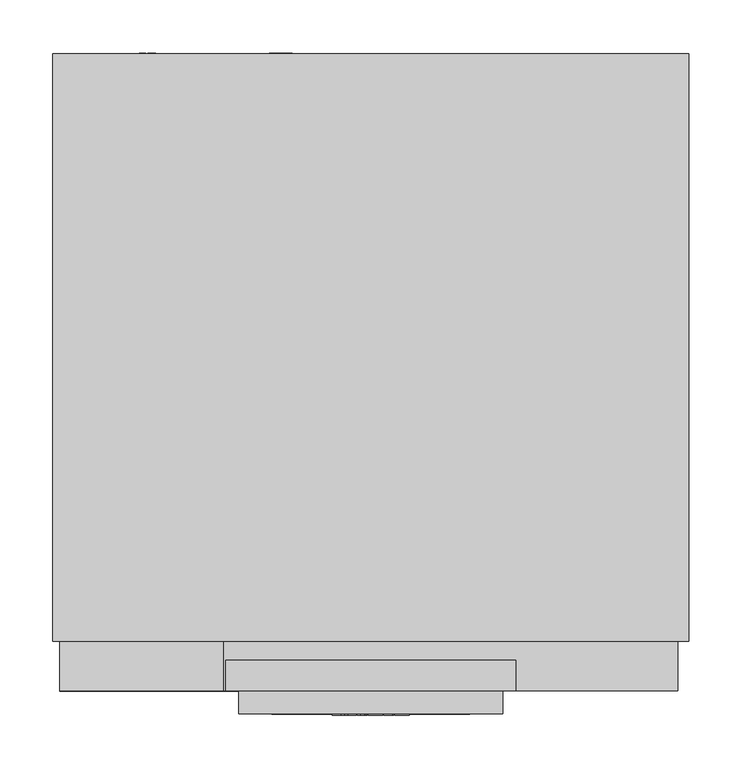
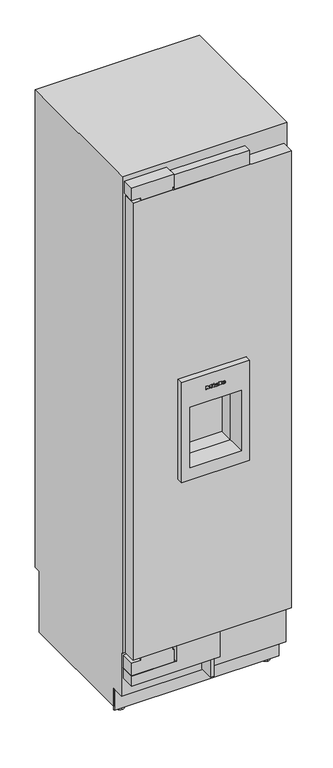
"""IFC4 building model written with IfcOpenShell, lengths in millimetres: proxy geometry, 11503550_USA_F2672Vi : 37267201_USA_11503550_F2672Vi."""

from ifc_helpers import new_model, si_unit, point, frame, frame_2d, origin, place, context, project, spatial, polyline, circle_curve, ellipse_curve, trimmed, segment, composite_curve, outline, extrude, faceted_brep, source, transform, mapped, element, save
from ifc_brep_helpers import plane_surface, cylinder_surface, revolved_surface, extruded_surface, advanced_brep


def specialty_equipment_8bc85f02(model_context):
    return source(origin(), model_context, "Body", "SolidModel", [
        extrude(outline(polyline([(-6.5, 54.0), (6.5, 54.0), (6.5, 0.0), (-6.5, 0.0), (-6.5, 54.0)])), frame((0.0, 0.0, 99.0), z_axis=(0.0, 0.0, 1.0), x_axis=(1.0, 0.0, 0.0)), (0.0, 0.0, 1.0), 67.0),
        faceted_brep([(125.0, -21.7, 1295.0), (-125.0, -21.7, 1295.0), (-125.0, -21.7, 908.0), (125.0, -21.7, 908.0), (94.0, -21.7, 1190.0), (94.0, -21.7, 956.0), (-94.0, -21.7, 956.0), (-94.0, -21.7, 1190.0), (125.0, 47.0, 1295.0), (125.0, 47.0, 908.0), (-125.0, 47.0, 908.0), (-125.0, 47.0, 1295.0), (94.0, 47.0, 1190.0), (-94.0, 47.0, 1190.0), (-94.0, 47.0, 956.0), (94.0, 47.0, 956.0), (-94.0, -11.7943775, 1190.0), (94.0, -11.7943775, 1190.0), (-94.0, -11.7943775, 956.0), (94.0, -11.7943775, 956.0)], [[[0, 1, 2, 3], [4, 5, 6, 7]], [[8, 9, 10, 11], [12, 13, 14, 15]], [[0, 3, 9, 8]], [[3, 2, 10, 9]], [[2, 1, 11, 10]], [[1, 0, 8, 11]], [[4, 7, 16, 13, 12, 17]], [[7, 6, 18, 14, 13, 16]], [[6, 5, 19, 15, 14, 18]], [[5, 4, 17, 12, 15, 19]]]),
        extrude(outline(polyline([(2036.0, 291.0), (2036.0, -291.0), (265.0, -291.0), (265.0, 291.0), (2036.0, 291.0)]), holes=[polyline([(1295.0, 125.0), (908.0, 125.0), (908.0, -125.0), (1295.0, -125.0), (1295.0, 125.0)])]), frame((0.0, 0.0, 0.0), z_axis=(0.0, 1.0, 0.0), x_axis=(0.0, 0.0, 1.0)), (0.0, 0.0, 1.0), 47.0),
        faceted_brep([(-158.0, 47.0, 863.0), (-158.0, 47.0, 1335.0), (-158.0, 239.0, 1335.0), (-158.0, 239.0, 987.0), (-158.0, 140.0, 863.0), (158.0, 47.0, 863.0), (158.0, 140.0, 863.0), (158.0, 239.0, 987.0), (158.0, 239.0, 1335.0), (158.0, 47.0, 1335.0), (94.0, 47.0, 1190.0), (94.0, 47.0, 956.0), (-94.0, 47.0, 956.0), (-94.0, 47.0, 1190.0), (94.0, 100.0, 1190.0), (-94.0, 100.0, 1190.0), (-94.0, 100.0, 956.0), (94.0, 100.0, 956.0)], [[[0, 1, 2, 3, 4]], [[5, 6, 7, 8, 9]], [[0, 4, 6, 5]], [[4, 3, 7, 6]], [[3, 2, 8, 7]], [[2, 1, 9, 8]], [[1, 0, 5, 9], [10, 11, 12, 13]], [[14, 15, 16, 17]], [[14, 17, 11, 10]], [[17, 16, 12, 11]], [[16, 15, 13, 12]], [[15, 14, 10, 13]]]),
        extrude(outline(polyline([(-137.5, 29.0), (137.5, 29.0), (137.5, 0.0), (-137.5, 0.0), (-137.5, 29.0)])), frame((0.0, 0.0, 2036.0), z_axis=(0.0, 0.0, 1.0), x_axis=(1.0, 0.0, 0.0)), (0.0, 0.0, 1.0), 56.0),
        advanced_brep(
        [(28.472, -22.7, 1241.344), (28.472, -22.7, 1242.556), (36.5, -22.7, 1242.556), (22.532, -22.7, 1242.556), (25.832, -22.7, 1238.5), (36.296, -22.7, 1241.344), (32.672, -22.7, 1241.344), (29.816, -22.7, 1240.0), (28.472, -22.7, 1244.092), (28.472, -22.7, 1245.4), (30.524, -22.7, 1245.4), (30.524, -22.7, 1244.092), (28.472, -21.7, 1241.344), (29.816, -21.7, 1240.0), (32.672, -21.7, 1241.344), (36.296, -21.7, 1241.344), (25.832, -21.7, 1238.5), (22.532, -21.7, 1242.556), (36.5, -21.7, 1242.556), (28.472, -21.7, 1242.556), (28.472, -21.7, 1244.092), (30.524, -21.7, 1244.092), (30.524, -21.7, 1245.4), (28.472, -21.7, 1245.4)],
        [
            (0, 1),
            (1, 2),
            (2, 3, ellipse_curve(frame((29.516, -22.7, 1242.556), z_axis=(0.0, -1.0, 0.0), x_axis=(-1.0, 0.0, 0.0)), 6.984, 5.772)),
            (3, 4, circle_curve(frame((27.1760655, -22.7, 1242.964), z_axis=(0.0, -1.0, 0.0), x_axis=(0.0, 0.0, -1.0)), 4.6619532)),
            (4, 5, circle_curve(frame((29.3761904, -22.7, 1246.132), z_axis=(0.0, -1.0, 0.0), x_axis=(0.0, 0.0, -1.0)), 8.4147911)),
            (5, 6),
            (6, 7, circle_curve(frame((30.4025882, -22.7, 1242.46), z_axis=(0.0, 1.0, 0.0), x_axis=(0.0, 0.0, -1.0)), 2.5289693)),
            (7, 0, circle_curve(frame((29.816, -22.7, 1241.344), z_axis=(0.0, 1.0, 0.0), x_axis=(0.0, 0.0, -1.0)), 1.344)),
            (8, 9),
            (9, 10, circle_curve(frame((29.498, -22.7, 1245.4), z_axis=(0.0, 1.0, 0.0), x_axis=(0.0, 0.0, -1.0)), 1.026)),
            (10, 11),
            (11, 8),
            (12, 13, circle_curve(frame((29.816, -21.7, 1241.344), z_axis=(0.0, -1.0, 0.0), x_axis=(0.0, 0.0, -1.0)), 1.344)),
            (13, 14, circle_curve(frame((30.4025882, -21.7, 1242.46), z_axis=(0.0, -1.0, 0.0), x_axis=(0.0, 0.0, -1.0)), 2.5289693)),
            (14, 15),
            (15, 16, circle_curve(frame((29.3761904, -21.7, 1246.132), z_axis=(0.0, 1.0, 0.0), x_axis=(0.0, 0.0, -1.0)), 8.4147911)),
            (16, 17, circle_curve(frame((27.1760655, -21.7, 1242.964), z_axis=(0.0, 1.0, 0.0), x_axis=(0.0, 0.0, -1.0)), 4.6619532)),
            (17, 18, ellipse_curve(frame((29.516, -21.7, 1242.556), z_axis=(0.0, 1.0, 0.0), x_axis=(-1.0, 0.0, 0.0)), 6.984, 5.772)),
            (18, 19),
            (19, 12),
            (20, 21),
            (21, 22),
            (22, 23, circle_curve(frame((29.498, -21.7, 1245.4), z_axis=(0.0, -1.0, 0.0), x_axis=(0.0, 0.0, -1.0)), 1.026)),
            (23, 20),
            (0, 12),
            (19, 1),
            (18, 2),
            (5, 15),
            (14, 6),
            (17, 3),
            (13, 7),
            (16, 4),
            (8, 20),
            (23, 9),
            (22, 10),
            (21, 11),
        ],
        [
            plane_surface(frame((28.472, -22.7, 1242.556), z_axis=(0.0, -1.0, 0.0), x_axis=(0.0, 0.0, 1.0))),
            plane_surface(frame((28.472, -21.7, 1242.556), z_axis=(0.0, 1.0, 0.0), x_axis=(0.0, 0.0, -1.0))),
            plane_surface(frame((28.472, -22.7, 1241.344), z_axis=(1.0, 0.0, 0.0), x_axis=(0.0, 1.0, 0.0))),
            plane_surface(frame((28.472, -22.7, 1242.556), z_axis=(0.0, 0.0, -1.0), x_axis=(0.0, 1.0, 0.0))),
            plane_surface(frame((36.296, -22.7, 1241.344), z_axis=(0.0, 0.0, 1.0), x_axis=(0.0, 1.0, 0.0))),
            extruded_surface(trimmed(ellipse_curve(frame((29.516, -20.7, 1242.556), z_axis=(0.0, -1.0, 0.0), x_axis=(-1.0, 0.0, 0.0)), 6.984, 5.772), [point((36.5, -20.7, 1242.556))], [point((22.532, -20.7, 1242.556))], True, "CARTESIAN"), (0.0, -1.0, 0.0), 1.0),
            revolved_surface(polyline([(30.4025882, -21.7, 1239.9310307), (30.4025882, -22.7, 1239.9310307)]), (30.4025882, -21.7, 1242.46), (0.0, 1.0, 0.0)),
            revolved_surface(polyline([(29.816, -21.7, 1240.0), (29.816, -22.7, 1240.0)]), (29.816, -21.7, 1241.344), (0.0, 1.0, 0.0)),
            cylinder_surface(frame((27.1760655, -21.7, 1242.964), z_axis=(0.0, -1.0, 0.0), x_axis=(0.0, 0.0, -1.0)), 4.6619532),
            cylinder_surface(frame((29.3761904, -21.7, 1246.132), z_axis=(0.0, -1.0, 0.0), x_axis=(0.0, 0.0, -1.0)), 8.4147911),
            plane_surface(frame((28.472, -22.7, 1244.092), z_axis=(1.0, 0.0, 0.0), x_axis=(0.0, 1.0, 0.0))),
            revolved_surface(polyline([(29.498, -21.7, 1244.374), (29.498, -22.7, 1244.374)]), (29.498, -21.7, 1245.4), (0.0, 1.0, 0.0)),
            plane_surface(frame((30.524, -22.7, 1245.4), z_axis=(-1.0, 0.0, 0.0), x_axis=(0.0, 1.0, 0.0))),
            plane_surface(frame((30.524, -22.7, 1244.092), z_axis=(0.0, 0.0, 1.0), x_axis=(0.0, 1.0, 0.0))),
        ],
        [
            (0, [[1, 2, 3, 4, 5, 6, 7, 8], [9, 10, 11, 12]]),
            (1, [[13, 14, 15, 16, 17, 18, 19, 20], [21, 22, 23, 24]]),
            (2, [[-1, 25, -20, 26]]),
            (3, [[-2, -26, -19, 27]]),
            (4, [[-6, 28, -15, 29]]),
            (5, [[-3, -27, -18, 30]]),
            (6, [[-7, -29, -14, 31]]),
            (7, [[-8, -31, -13, -25]]),
            (8, [[-4, -30, -17, 32]]),
            (9, [[-5, -32, -16, -28]]),
            (10, [[-9, 33, -24, 34]]),
            (11, [[-10, -34, -23, 35]]),
            (12, [[-11, -35, -22, 36]]),
            (13, [[-12, -36, -21, -33]]),
        ],
    ),
        advanced_brep(
        [(3.428, -22.7, 1241.344), (3.428, -22.7, 1242.556), (11.456, -22.7, 1242.556), (-2.512, -22.7, 1242.556), (0.788, -22.7, 1238.5), (11.252, -22.7, 1241.344), (7.628, -22.7, 1241.344), (4.772, -22.7, 1240.0), (3.428, -22.7, 1244.092), (3.428, -22.7, 1245.4), (5.48, -22.7, 1245.4), (5.48, -22.7, 1244.092), (3.428, -21.7, 1241.344), (4.772, -21.7, 1240.0), (7.628, -21.7, 1241.344), (11.252, -21.7, 1241.344), (0.788, -21.7, 1238.5), (-2.512, -21.7, 1242.556), (11.456, -21.7, 1242.556), (3.428, -21.7, 1242.556), (3.428, -21.7, 1244.092), (5.48, -21.7, 1244.092), (5.48, -21.7, 1245.4), (3.428, -21.7, 1245.4)],
        [
            (0, 1),
            (1, 2),
            (2, 3, ellipse_curve(frame((4.472, -22.7, 1242.556), z_axis=(0.0, -1.0, 0.0), x_axis=(-1.0, 0.0, 0.0)), 6.984, 5.772)),
            (3, 4, circle_curve(frame((2.1320655, -22.7, 1242.964), z_axis=(0.0, -1.0, 0.0), x_axis=(0.0, 0.0, -1.0)), 4.6619532)),
            (4, 5, circle_curve(frame((4.3321904, -22.7, 1246.132), z_axis=(0.0, -1.0, 0.0), x_axis=(0.0, 0.0, -1.0)), 8.4147911)),
            (5, 6),
            (6, 7, circle_curve(frame((5.3585882, -22.7, 1242.46), z_axis=(0.0, 1.0, 0.0), x_axis=(0.0, 0.0, -1.0)), 2.5289693)),
            (7, 0, circle_curve(frame((4.772, -22.7, 1241.344), z_axis=(0.0, 1.0, 0.0), x_axis=(0.0, 0.0, -1.0)), 1.344)),
            (8, 9),
            (9, 10, circle_curve(frame((4.454, -22.7, 1245.4), z_axis=(0.0, 1.0, 0.0), x_axis=(0.0, 0.0, -1.0)), 1.026)),
            (10, 11),
            (11, 8),
            (12, 13, circle_curve(frame((4.772, -21.7, 1241.344), z_axis=(0.0, -1.0, 0.0), x_axis=(0.0, 0.0, -1.0)), 1.344)),
            (13, 14, circle_curve(frame((5.3585882, -21.7, 1242.46), z_axis=(0.0, -1.0, 0.0), x_axis=(0.0, 0.0, -1.0)), 2.5289693)),
            (14, 15),
            (15, 16, circle_curve(frame((4.3321904, -21.7, 1246.132), z_axis=(0.0, 1.0, 0.0), x_axis=(0.0, 0.0, -1.0)), 8.4147911)),
            (16, 17, circle_curve(frame((2.1320655, -21.7, 1242.964), z_axis=(0.0, 1.0, 0.0), x_axis=(0.0, 0.0, -1.0)), 4.6619532)),
            (17, 18, ellipse_curve(frame((4.472, -21.7, 1242.556), z_axis=(0.0, 1.0, 0.0), x_axis=(-1.0, 0.0, 0.0)), 6.984, 5.772)),
            (18, 19),
            (19, 12),
            (20, 21),
            (21, 22),
            (22, 23, circle_curve(frame((4.454, -21.7, 1245.4), z_axis=(0.0, -1.0, 0.0), x_axis=(0.0, 0.0, -1.0)), 1.026)),
            (23, 20),
            (0, 12),
            (19, 1),
            (18, 2),
            (5, 15),
            (14, 6),
            (17, 3),
            (13, 7),
            (16, 4),
            (8, 20),
            (23, 9),
            (22, 10),
            (21, 11),
        ],
        [
            plane_surface(frame((3.428, -22.7, 1242.556), z_axis=(0.0, -1.0, 0.0), x_axis=(0.0, 0.0, 1.0))),
            plane_surface(frame((3.428, -21.7, 1242.556), z_axis=(0.0, 1.0, 0.0), x_axis=(0.0, 0.0, -1.0))),
            plane_surface(frame((3.428, -22.7, 1241.344), z_axis=(1.0, 0.0, 0.0), x_axis=(0.0, 1.0, 0.0))),
            plane_surface(frame((3.428, -22.7, 1242.556), z_axis=(0.0, 0.0, -1.0), x_axis=(0.0, 1.0, 0.0))),
            plane_surface(frame((11.252, -22.7, 1241.344), z_axis=(0.0, 0.0, 1.0), x_axis=(0.0, 1.0, 0.0))),
            extruded_surface(trimmed(ellipse_curve(frame((4.472, -20.7, 1242.556), z_axis=(0.0, -1.0, 0.0), x_axis=(-1.0, 0.0, 0.0)), 6.984, 5.772), [point((11.456, -20.7, 1242.556))], [point((-2.512, -20.7, 1242.556))], True, "CARTESIAN"), (0.0, -1.0, 0.0), 1.0),
            revolved_surface(polyline([(5.3585882, -21.7, 1239.9310307), (5.3585882, -22.7, 1239.9310307)]), (5.3585882, -21.7, 1242.46), (0.0, 1.0, 0.0)),
            revolved_surface(polyline([(4.772, -21.7, 1240.0), (4.772, -22.7, 1240.0)]), (4.772, -21.7, 1241.344), (0.0, 1.0, 0.0)),
            cylinder_surface(frame((2.1320655, -21.7, 1242.964), z_axis=(0.0, -1.0, 0.0), x_axis=(0.0, 0.0, -1.0)), 4.6619532),
            cylinder_surface(frame((4.3321904, -21.7, 1246.132), z_axis=(0.0, -1.0, 0.0), x_axis=(0.0, 0.0, -1.0)), 8.4147911),
            plane_surface(frame((3.428, -22.7, 1244.092), z_axis=(1.0, 0.0, 0.0), x_axis=(0.0, 1.0, 0.0))),
            revolved_surface(polyline([(4.454, -21.7, 1244.374), (4.454, -22.7, 1244.374)]), (4.454, -21.7, 1245.4), (0.0, 1.0, 0.0)),
            plane_surface(frame((5.48, -22.7, 1245.4), z_axis=(-1.0, 0.0, 0.0), x_axis=(0.0, 1.0, 0.0))),
            plane_surface(frame((5.48, -22.7, 1244.092), z_axis=(0.0, 0.0, 1.0), x_axis=(0.0, 1.0, 0.0))),
        ],
        [
            (0, [[1, 2, 3, 4, 5, 6, 7, 8], [9, 10, 11, 12]]),
            (1, [[13, 14, 15, 16, 17, 18, 19, 20], [21, 22, 23, 24]]),
            (2, [[-1, 25, -20, 26]]),
            (3, [[-2, -26, -19, 27]]),
            (4, [[-6, 28, -15, 29]]),
            (5, [[-3, -27, -18, 30]]),
            (6, [[-7, -29, -14, 31]]),
            (7, [[-8, -31, -13, -25]]),
            (8, [[-4, -30, -17, 32]]),
            (9, [[-5, -32, -16, -28]]),
            (10, [[-9, 33, -24, 34]]),
            (11, [[-10, -34, -23, 35]]),
            (12, [[-11, -35, -22, 36]]),
            (13, [[-12, -36, -21, -33]]),
        ],
    ),
        extrude(outline(polyline([(1249.792, -9.688), (1247.848, -8.776), (1249.744, -4.708), (1251.688, -5.608), (1249.792, -9.688)])), frame((0.0, -22.7, 0.0), z_axis=(0.0, 1.0, 0.0), x_axis=(0.0, 0.0, 1.0)), (0.0, 0.0, 1.0), 1.0),
        extrude(outline(polyline([(1247.584, -12.652), (1245.436, -12.652), (1245.436, -11.224), (1240.516, -11.224), (1240.516, -12.652), (1238.5, -12.652), (1238.5, -3.184), (1240.516, -3.184), (1240.516, -4.576), (1247.584, -4.576), (1247.584, -12.652)])), frame((0.0, -22.7, 0.0), z_axis=(0.0, 1.0, 0.0), x_axis=(0.0, 0.0, 1.0)), (0.0, 0.0, 1.0), 1.0),
        extrude(outline(polyline([(1248.544, 12.128), (1248.544, 13.568), (1240.516, 13.568), (1240.516, 12.128), (1238.5, 12.128), (1238.5, 21.86), (1240.516, 21.86), (1240.516, 20.384), (1250.5, 20.384), (1250.5, 12.128), (1248.544, 12.128)])), frame((0.0, -22.7, 0.0), z_axis=(0.0, 1.0, 0.0), x_axis=(0.0, 0.0, 1.0)), (0.0, 0.0, 1.0), 1.0),
        extrude(outline(polyline([(1248.544, -36.568), (1248.544, -35.116), (1240.516, -35.116), (1240.516, -36.568), (1238.5, -36.568), (1238.5, -31.288), (1240.516, -31.288), (1240.516, -32.728), (1245.5951247, -32.728), (1238.5, -27.364), (1245.8152223, -21.976), (1240.516, -21.976), (1240.516, -23.452), (1238.5, -23.452), (1238.5, -13.876), (1240.516, -13.876), (1240.516, -15.4), (1248.544, -15.4), (1248.544, -13.876), (1250.5, -13.876), (1250.5, -21.184), (1246.0, -24.688), (1250.5, -28.204), (1250.5, -36.568), (1248.544, -36.568)])), frame((0.0, -22.7, 0.0), z_axis=(0.0, 1.0, 0.0), x_axis=(0.0, 0.0, 1.0)), (0.0, 0.0, 1.0), 1.0),
        extrude(outline(polyline([(519.0, 1998.0), (519.0, 1799.0), (447.0526316, 1799.0), (422.0, 1867.0), (201.7448904, 1867.0), (157.0, 1939.0), (87.0, 1949.0), (87.0, 1998.0), (519.0, 1998.0)])), frame((-255.5, 0.0, 0.0), z_axis=(1.0, 0.0, 0.0), x_axis=(0.0, 1.0, 0.0)), (0.0, 0.0, 1.0), 511.0),
        extrude(outline(polyline([(196.9886114, 1875.0), (195.809433, 1875.0), (158.6921935, 1934.4), (159.8713719, 1934.4), (196.9886114, 1875.0)])), frame((-69.0, 0.0, 0.0), z_axis=(1.0, 0.0, 0.0), x_axis=(0.0, 1.0, 0.0)), (0.0, 0.0, 1.0), 138.0),
        extrude(outline(polyline([(46.0510837, -84.101717), (37.4134902, -86.1745179), (46.0453554, -88.6868463), (46.0453554, -90.5601414), (37.4089549, -93.0799633), (46.0493903, -95.1581876), (46.0493903, -96.4649805), (36.0005458, -93.7156324), (36.0005458, -92.372208), (44.8261022, -89.6342221), (35.9987467, -87.0620509), (35.9987287, -85.5451466), (46.0510837, -82.800191), (46.0510837, -84.101717)])), frame((0.0, 604.0, 0.0), z_axis=(0.0, 1.0, 0.0), x_axis=(0.0, 0.0, 1.0)), (0.0, 0.0, 1.0), 1.0),
        extrude(outline(polyline([(46.0485238, -75.7401503), (41.1363122, -75.7401503), (46.0468162, -80.884602), (46.0468162, -82.6328316), (41.9156889, -78.3260313), (36.000035, -82.8032231), (36.000035, -81.2795519), (41.0742849, -77.4391666), (39.4525334, -75.7395503), (35.9999292, -75.7395503), (35.9999292, -74.4795491), (46.0485238, -74.4795491), (46.0485238, -75.7401503)])), frame((0.0, 604.0, 0.0), z_axis=(0.0, 1.0, 0.0), x_axis=(0.0, 0.0, 1.0)), (0.0, 0.0, 1.0), 1.0),
        extrude(outline(composite_curve([segment(trimmed(circle_curve(frame_2d((41.0, -85.0)), 7.5), [point((33.5, -85.0))], [point((48.5, -85.0))], False, "CARTESIAN"), True, "CONTINUOUS"), segment(trimmed(circle_curve(frame_2d((41.0, -85.0)), 7.5), [point((48.5, -85.0))], [point((33.5, -85.0))], False, "CARTESIAN"), True, "CONTINUOUS")], self_intersect=False)), frame((0.0, 577.0, 0.0), z_axis=(0.0, 1.0, 0.0), x_axis=(0.0, 0.0, 1.0)), (0.0, 0.0, 1.0), 27.0),
        extrude(outline(polyline([(2095.0, -295.0), (2047.0, -295.0), (2047.0, -261.0), (2036.5, -261.0), (2036.5, -146.0), (2047.0, -146.0), (2047.0, -140.0), (2095.0, -140.0), (2095.0, -295.0)])), frame((0.0, 0.0, 0.0), z_axis=(0.0, 1.0, 0.0), x_axis=(0.0, 0.0, 1.0)), (0.0, 0.0, 1.0), 47.0),
        extrude(outline(polyline([(254.0, -295.0), (206.0, -295.0), (206.0, -140.0), (254.0, -140.0), (254.0, -146.0), (264.0, -146.0), (264.0, -261.0), (254.0, -261.0), (254.0, -295.0)])), frame((0.0, 0.0, 0.0), z_axis=(0.0, 1.0, 0.0), x_axis=(0.0, 0.0, 1.0)), (0.0, 0.0, 1.0), 54.0),
        extrude(outline(polyline([(265.0, -131.5), (205.0, -131.5), (205.0, -295.0), (166.0, -295.0), (166.0, 28.5), (265.0, 28.5), (265.0, -131.5)])), frame((0.0, 0.0, 0.0), z_axis=(0.0, 1.0, 0.0), x_axis=(0.0, 0.0, 1.0)), (0.0, 0.0, 1.0), 54.0),
        extrude(outline(polyline([(99.0373308, -211.2645771), (97.7615342, -211.2645771), (97.7615342, -205.3195541), (94.7968516, -205.3195541), (94.7968516, -210.969579), (93.5246295, -210.969579), (93.5246295, -205.3415693), (90.2570046, -205.3415693), (90.2570046, -211.4619689), (88.9546219, -211.4619689), (88.9546219, -204.0443524), (99.0373308, -204.0443524), (99.0373308, -211.2645771)])), frame((0.0, 604.0, 0.0), z_axis=(0.0, 1.0, 0.0), x_axis=(0.0, 0.0, 1.0)), (0.0, 0.0, 1.0), 1.0),
        extrude(outline(polyline([(99.0458, -214.5619704), (90.2663944, -214.5619704), (90.2663944, -219.6145879), (89.0134802, -219.6145879), (89.0134802, -213.3423809), (99.0458, -213.3423809), (99.0458, -214.5619704)])), frame((0.0, 604.0, 0.0), z_axis=(0.0, 1.0, 0.0), x_axis=(0.0, 0.0, 1.0)), (0.0, 0.0, 1.0), 1.0),
        extrude(outline(composite_curve([segment(trimmed(circle_curve(frame_2d((94.0, -211.5)), 7.5), [point((86.5, -211.5))], [point((101.5, -211.5))], False, "CARTESIAN"), True, "CONTINUOUS"), segment(trimmed(circle_curve(frame_2d((94.0, -211.5)), 7.5), [point((101.5, -211.5))], [point((86.5, -211.5))], False, "CARTESIAN"), True, "CONTINUOUS")], self_intersect=False)), frame((0.0, 577.0, 0.0), z_axis=(0.0, 1.0, 0.0), x_axis=(0.0, 0.0, 1.0)), (0.0, 0.0, 1.0), 27.0),
        extrude(outline(polyline([(-301.5, 104.0), (301.5, 104.0), (301.5, 99.0), (-301.5, 99.0), (-301.5, 104.0)])), frame((0.0, 0.0, 14.0), z_axis=(0.0, 0.0, 1.0), x_axis=(1.0, 0.0, 0.0)), (0.0, 0.0, 1.0), 83.0),
        advanced_brep(
        [(-267.5, 139.0, 0.0), (-267.5, 109.0, 0.0), (-267.5, 139.0, 7.0), (-267.5, 109.0, 7.0), (-267.5, 128.7, 7.0), (-267.5, 119.3, 7.0), (-267.5, 128.7, 28.0), (-267.5, 119.3, 28.0)],
        [
            (0, 1, circle_curve(frame((-267.5, 124.0, 0.0), z_axis=(0.0, 0.0, -1.0), x_axis=(1.0, 0.0, 0.0)), 15.0)),
            (1, 0, circle_curve(frame((-267.5, 124.0, 0.0), z_axis=(0.0, 0.0, -1.0), x_axis=(1.0, 0.0, 0.0)), 15.0)),
            (2, 3, circle_curve(frame((-267.5, 124.0, 7.0), z_axis=(0.0, 0.0, 1.0), x_axis=(1.0, 0.0, 0.0)), 15.0)),
            (3, 2, circle_curve(frame((-267.5, 124.0, 7.0), z_axis=(0.0, 0.0, 1.0), x_axis=(1.0, 0.0, 0.0)), 15.0)),
            (4, 5, circle_curve(frame((-267.5, 124.0, 7.0), z_axis=(0.0, 0.0, -1.0), x_axis=(0.0, -1.0, 0.0)), 4.7)),
            (5, 4, circle_curve(frame((-267.5, 124.0, 7.0), z_axis=(0.0, 0.0, -1.0), x_axis=(0.0, -1.0, 0.0)), 4.7)),
            (0, 2),
            (3, 1),
            (6, 7, circle_curve(frame((-267.5, 124.0, 28.0), z_axis=(0.0, 0.0, 1.0), x_axis=(0.0, -1.0, 0.0)), 4.7)),
            (7, 6, circle_curve(frame((-267.5, 124.0, 28.0), z_axis=(0.0, 0.0, 1.0), x_axis=(0.0, -1.0, 0.0)), 4.7)),
            (7, 5),
            (4, 6),
        ],
        [
            plane_surface(frame((-252.5, 124.0, 0.0), z_axis=(0.0, 0.0, -1.0), x_axis=(0.0, -1.0, 0.0))),
            plane_surface(frame((-252.5, 124.0, 7.0), z_axis=(0.0, 0.0, 1.0), x_axis=(0.0, 1.0, 0.0))),
            cylinder_surface(frame((-267.5, 124.0, 7.0), z_axis=(0.0, 0.0, -1.0), x_axis=(1.0, 0.0, 0.0)), 15.0),
            plane_surface(frame((-267.5, 119.3, 28.0), z_axis=(0.0, 0.0, 1.0), x_axis=(1.0, 0.0, 0.0))),
            cylinder_surface(frame((-267.5, 124.0, 28.0), z_axis=(0.0, 0.0, -1.0), x_axis=(0.0, -1.0, 0.0)), 4.7),
        ],
        [
            (0, [[1, 2]]),
            (1, [[3, 4], [5, 6]]),
            (2, [[-1, 7, -4, 8]]),
            (2, [[-2, -8, -3, -7]]),
            (3, [[9, 10]]),
            (4, [[-10, 11, -5, 12]]),
            (4, [[-9, -12, -6, -11]]),
        ],
    ),
        advanced_brep(
        [(267.5, 139.0, 0.0), (267.5, 109.0, 0.0), (267.5, 139.0, 7.0), (267.5, 109.0, 7.0), (267.5, 128.7, 7.0), (267.5, 119.3, 7.0), (267.5, 128.7, 28.0), (267.5, 119.3, 28.0)],
        [
            (0, 1, circle_curve(frame((267.5, 124.0, 0.0), z_axis=(0.0, 0.0, -1.0), x_axis=(1.0, 0.0, 0.0)), 15.0)),
            (1, 0, circle_curve(frame((267.5, 124.0, 0.0), z_axis=(0.0, 0.0, -1.0), x_axis=(1.0, 0.0, 0.0)), 15.0)),
            (2, 3, circle_curve(frame((267.5, 124.0, 7.0), z_axis=(0.0, 0.0, 1.0), x_axis=(1.0, 0.0, 0.0)), 15.0)),
            (3, 2, circle_curve(frame((267.5, 124.0, 7.0), z_axis=(0.0, 0.0, 1.0), x_axis=(1.0, 0.0, 0.0)), 15.0)),
            (4, 5, circle_curve(frame((267.5, 124.0, 7.0), z_axis=(0.0, 0.0, -1.0), x_axis=(0.0, -1.0, 0.0)), 4.7)),
            (5, 4, circle_curve(frame((267.5, 124.0, 7.0), z_axis=(0.0, 0.0, -1.0), x_axis=(0.0, -1.0, 0.0)), 4.7)),
            (0, 2),
            (3, 1),
            (6, 7, circle_curve(frame((267.5, 124.0, 28.0), z_axis=(0.0, 0.0, 1.0), x_axis=(0.0, -1.0, 0.0)), 4.7)),
            (7, 6, circle_curve(frame((267.5, 124.0, 28.0), z_axis=(0.0, 0.0, 1.0), x_axis=(0.0, -1.0, 0.0)), 4.7)),
            (7, 5),
            (4, 6),
        ],
        [
            plane_surface(frame((-252.5, 124.0, 0.0), z_axis=(0.0, 0.0, -1.0), x_axis=(0.0, -1.0, 0.0))),
            plane_surface(frame((-252.5, 124.0, 7.0), z_axis=(0.0, 0.0, 1.0), x_axis=(0.0, 1.0, 0.0))),
            cylinder_surface(frame((267.5, 124.0, 7.0), z_axis=(0.0, 0.0, -1.0), x_axis=(1.0, 0.0, 0.0)), 15.0),
            plane_surface(frame((-267.5, 119.3, 28.0), z_axis=(0.0, 0.0, 1.0), x_axis=(1.0, 0.0, 0.0))),
            cylinder_surface(frame((267.5, 124.0, 28.0), z_axis=(0.0, 0.0, -1.0), x_axis=(0.0, -1.0, 0.0)), 4.7),
        ],
        [
            (0, [[1, 2]]),
            (1, [[3, 4], [5, 6]]),
            (2, [[-1, 7, -4, 8]]),
            (2, [[-2, -8, -3, -7]]),
            (3, [[9, 10]]),
            (4, [[-10, 11, -5, 12]]),
            (4, [[-9, -12, -6, -11]]),
        ],
    ),
        advanced_brep(
        [(301.5, 47.0, 2114.0), (301.5, 47.0, 267.0), (301.5, 54.0, 267.0), (301.5, 54.0, 97.0), (301.5, 104.0, 97.0), (301.5, 104.0, 28.0), (301.5, 577.0, 28.0), (301.5, 577.0, 263.0), (301.5, 604.0, 263.0), (301.5, 604.0, 2114.0), (-301.5, 47.0, 2114.0), (-301.5, 604.0, 2114.0), (-301.5, 604.0, 263.0), (-301.5, 577.0, 263.0), (-301.5, 577.0, 28.0), (-301.5, 104.0, 28.0), (-301.5, 104.0, 97.0), (-301.5, 54.0, 97.0), (-301.5, 54.0, 267.0), (-301.5, 47.0, 267.0), (241.5, 577.0, 28.0), (241.5, 577.0, 14.0), (-241.5, 577.0, 14.0), (-241.5, 577.0, 28.0), (241.5, 104.0, 14.0), (-241.5, 104.0, 14.0), (-241.5, 104.0, 28.0), (241.5, 104.0, 28.0), (255.5, 47.0, 1998.0), (255.5, 47.0, 343.0), (-255.5, 47.0, 343.0), (-255.5, 47.0, 1998.0), (255.5, 519.0, 1998.0), (-255.5, 519.0, 1998.0), (-255.5, 519.0, 343.0), (255.5, 519.0, 343.0), (-260.0, 202.8193473, 28.0), (-279.0, 202.8193473, 28.0), (-279.0, 153.1806527, 28.0), (-260.0, 153.1806527, 28.0), (-279.5, 525.8193473, 28.0), (-279.5, 476.1806527, 28.0), (-263.5, 476.1806527, 28.0), (-263.5, 525.8193473, 28.0), (279.0, 153.1806527, 28.0), (279.0, 202.8193473, 28.0), (260.0, 202.8193473, 28.0), (260.0, 153.1806527, 28.0), (263.5, 525.8193473, 28.0), (263.5, 476.1806527, 28.0), (279.5, 476.1806527, 28.0), (279.5, 525.8193473, 28.0), (-260.0, 203.0, 25.0), (-260.0, 153.0, 25.0), (-279.0, 153.0, 25.0), (-279.0, 203.0, 25.0), (-260.0, 178.0, 25.0), (-279.0, 178.0, 25.0), (279.0, 178.0, 25.0), (279.0, 153.0, 25.0), (279.0, 203.0, 25.0), (260.0, 203.0, 25.0), (260.0, 153.0, 25.0), (260.0, 178.0, 25.0), (-279.5, 526.0, 25.0), (-279.5, 476.0, 25.0), (-279.5, 501.0, 25.0), (-263.5, 526.0, 25.0), (-263.5, 476.0, 25.0), (-263.5, 501.0, 25.0), (263.5, 526.0, 25.0), (263.5, 476.0, 25.0), (263.5, 501.0, 25.0), (279.5, 526.0, 25.0), (279.5, 476.0, 25.0), (279.5, 501.0, 25.0)],
        [
            (0, 1),
            (1, 2),
            (2, 3),
            (3, 4),
            (4, 5),
            (5, 6),
            (6, 7),
            (7, 8),
            (8, 9),
            (9, 0),
            (10, 11),
            (11, 12),
            (12, 13),
            (13, 14),
            (14, 15),
            (15, 16),
            (16, 17),
            (17, 18),
            (18, 19),
            (19, 10),
            (9, 11),
            (10, 0),
            (8, 12),
            (7, 13),
            (6, 20),
            (20, 21),
            (21, 22),
            (22, 23),
            (23, 14),
            (21, 24),
            (24, 25),
            (25, 22),
            (4, 16),
            (15, 26),
            (26, 25),
            (24, 27),
            (27, 5),
            (3, 17),
            (2, 18),
            (1, 19),
            (28, 29),
            (29, 30),
            (30, 31),
            (31, 28),
            (32, 33),
            (33, 34),
            (34, 35),
            (35, 32),
            (35, 29),
            (28, 32),
            (34, 30),
            (33, 31),
            (23, 26),
            (36, 37),
            (37, 38),
            (38, 39),
            (39, 36),
            (40, 41),
            (41, 42),
            (42, 43),
            (43, 40),
            (27, 20),
            (44, 45),
            (45, 46),
            (46, 47),
            (47, 44),
            (48, 49),
            (49, 50),
            (50, 51),
            (51, 48),
            (52, 53, circle_curve(frame((-260.0, 178.0, 25.0), z_axis=(-1.0, 0.0, 0.0), x_axis=(0.0, -1.0, 0.0)), 25.0)),
            (53, 54),
            (54, 55, circle_curve(frame((-279.0, 178.0, 25.0), z_axis=(1.0, 0.0, 0.0), x_axis=(0.0, -1.0, 0.0)), 25.0)),
            (55, 52),
            (53, 39, circle_curve(frame((-260.0, 178.0, 25.0), z_axis=(-1.0, 0.0, 0.0), x_axis=(0.0, -1.0, 0.0)), 25.0)),
            (38, 54, circle_curve(frame((-279.0, 178.0, 25.0), z_axis=(1.0, 0.0, 0.0), x_axis=(0.0, -1.0, 0.0)), 25.0)),
            (55, 37, circle_curve(frame((-279.0, 178.0, 25.0), z_axis=(1.0, 0.0, 0.0), x_axis=(0.0, -1.0, 0.0)), 25.0)),
            (36, 52, circle_curve(frame((-260.0, 178.0, 25.0), z_axis=(-1.0, 0.0, 0.0), x_axis=(0.0, -1.0, 0.0)), 25.0)),
            (52, 56),
            (56, 53),
            (54, 57),
            (57, 55),
            (58, 59),
            (59, 60, circle_curve(frame((279.0, 178.0, 25.0), z_axis=(1.0, 0.0, 0.0), x_axis=(0.0, -1.0, 0.0)), 25.0)),
            (60, 58),
            (60, 45, circle_curve(frame((279.0, 178.0, 25.0), z_axis=(1.0, 0.0, 0.0), x_axis=(0.0, -1.0, 0.0)), 25.0)),
            (44, 59, circle_curve(frame((279.0, 178.0, 25.0), z_axis=(1.0, 0.0, 0.0), x_axis=(0.0, -1.0, 0.0)), 25.0)),
            (61, 62, circle_curve(frame((260.0, 178.0, 25.0), z_axis=(-1.0, 0.0, 0.0), x_axis=(0.0, -1.0, 0.0)), 25.0)),
            (62, 63),
            (63, 61),
            (62, 47, circle_curve(frame((260.0, 178.0, 25.0), z_axis=(-1.0, 0.0, 0.0), x_axis=(0.0, -1.0, 0.0)), 25.0)),
            (46, 61, circle_curve(frame((260.0, 178.0, 25.0), z_axis=(-1.0, 0.0, 0.0), x_axis=(0.0, -1.0, 0.0)), 25.0)),
            (64, 65, circle_curve(frame((-279.5, 501.0, 25.0), z_axis=(-1.0, 0.0, 0.0), x_axis=(0.0, -1.0, 0.0)), 25.0)),
            (65, 66),
            (66, 64),
            (65, 41, circle_curve(frame((-279.5, 501.0, 25.0), z_axis=(-1.0, 0.0, 0.0), x_axis=(0.0, -1.0, 0.0)), 25.0)),
            (40, 64, circle_curve(frame((-279.5, 501.0, 25.0), z_axis=(-1.0, 0.0, 0.0), x_axis=(0.0, -1.0, 0.0)), 25.0)),
            (64, 67),
            (67, 68, circle_curve(frame((-263.5, 501.0, 25.0), z_axis=(-1.0, 0.0, 0.0), x_axis=(0.0, -1.0, 0.0)), 25.0)),
            (68, 65),
            (43, 67, circle_curve(frame((-263.5, 501.0, 25.0), z_axis=(-1.0, 0.0, 0.0), x_axis=(0.0, -1.0, 0.0)), 25.0)),
            (68, 42, circle_curve(frame((-263.5, 501.0, 25.0), z_axis=(-1.0, 0.0, 0.0), x_axis=(0.0, -1.0, 0.0)), 25.0)),
            (67, 69),
            (69, 68),
            (70, 71, circle_curve(frame((263.5, 501.0, 25.0), z_axis=(-1.0, 0.0, 0.0), x_axis=(0.0, -1.0, 0.0)), 25.0)),
            (71, 72),
            (72, 70),
            (71, 49, circle_curve(frame((263.5, 501.0, 25.0), z_axis=(-1.0, 0.0, 0.0), x_axis=(0.0, -1.0, 0.0)), 25.0)),
            (48, 70, circle_curve(frame((263.5, 501.0, 25.0), z_axis=(-1.0, 0.0, 0.0), x_axis=(0.0, -1.0, 0.0)), 25.0)),
            (70, 73),
            (73, 74, circle_curve(frame((279.5, 501.0, 25.0), z_axis=(-1.0, 0.0, 0.0), x_axis=(0.0, -1.0, 0.0)), 25.0)),
            (74, 71),
            (51, 73, circle_curve(frame((279.5, 501.0, 25.0), z_axis=(-1.0, 0.0, 0.0), x_axis=(0.0, -1.0, 0.0)), 25.0)),
            (74, 50, circle_curve(frame((279.5, 501.0, 25.0), z_axis=(-1.0, 0.0, 0.0), x_axis=(0.0, -1.0, 0.0)), 25.0)),
            (73, 75),
            (75, 74),
            (59, 62),
            (61, 60),
        ],
        [
            plane_surface(frame((301.5, 604.0, 2114.0), z_axis=(1.0, 0.0, 0.0), x_axis=(0.0, -1.0, 0.0))),
            plane_surface(frame((-301.5, 604.0, 2114.0), z_axis=(-1.0, 0.0, 0.0), x_axis=(0.0, 1.0, 0.0))),
            plane_surface(frame((-301.5, 47.0, 2114.0), z_axis=(0.0, 0.0, 1.0), x_axis=(1.0, 0.0, 0.0))),
            plane_surface(frame((-301.5, 604.0, 2114.0), z_axis=(0.0, 1.0, 0.0), x_axis=(1.0, 0.0, 0.0))),
            plane_surface(frame((-301.5, 604.0, 263.0), z_axis=(0.0, 0.0, -1.0), x_axis=(1.0, 0.0, 0.0))),
            plane_surface(frame((-301.5, 577.0, 263.0), z_axis=(0.0, 1.0, 0.0), x_axis=(1.0, 0.0, 0.0))),
            plane_surface(frame((-301.5, 577.0, 14.0), z_axis=(0.0, 0.0, -1.0), x_axis=(1.0, 0.0, 0.0))),
            plane_surface(frame((-301.5, 104.0, 14.0), z_axis=(0.0, -1.0, 0.0), x_axis=(1.0, 0.0, 0.0))),
            plane_surface(frame((-301.5, 104.0, 97.0), z_axis=(0.0, 0.0, -1.0), x_axis=(1.0, 0.0, 0.0))),
            plane_surface(frame((-301.5, 54.0, 97.0), z_axis=(0.0, -1.0, 0.0), x_axis=(1.0, 0.0, 0.0))),
            plane_surface(frame((-301.5, 54.0, 267.0), z_axis=(0.0, 0.0, -1.0), x_axis=(1.0, 0.0, 0.0))),
            plane_surface(frame((-301.5, 47.0, 267.0), z_axis=(0.0, -1.0, 0.0), x_axis=(1.0, 0.0, 0.0))),
            plane_surface(frame((255.5, 519.0, 1998.0), z_axis=(0.0, -1.0, 0.0), x_axis=(0.0, 0.0, -1.0))),
            plane_surface(frame((255.5, 519.0, 1998.0), z_axis=(-1.0, 0.0, 0.0), x_axis=(0.0, -1.0, 0.0))),
            plane_surface(frame((255.5, 519.0, 343.0), z_axis=(0.0, 0.0, 1.0), x_axis=(0.0, -1.0, 0.0))),
            plane_surface(frame((-255.5, 519.0, 343.0), z_axis=(1.0, 0.0, 0.0), x_axis=(0.0, -1.0, 0.0))),
            plane_surface(frame((-255.5, 519.0, 1998.0), z_axis=(0.0, 0.0, -1.0), x_axis=(0.0, -1.0, 0.0))),
            plane_surface(frame((-301.5, 604.0, 28.0), z_axis=(0.0, 0.0, -1.0), x_axis=(-1.0, 0.0, 0.0))),
            plane_surface(frame((-241.5, 104.0, 28.0), z_axis=(-1.0, 0.0, 0.0), x_axis=(0.0, 0.0, -1.0))),
            plane_surface(frame((241.5, 604.0, 28.0), z_axis=(1.0, 0.0, 0.0), x_axis=(0.0, 0.0, -1.0))),
            cylinder_surface(frame((-394.1988927, 178.0, 25.0), z_axis=(1.0, 0.0, 0.0), x_axis=(0.0, -1.0, 0.0)), 25.0),
            plane_surface(frame((-260.0, 178.0, 25.0), z_axis=(1.0, 0.0, 0.0), x_axis=(0.0, -1.0, 0.0))),
            plane_surface(frame((-279.0, 178.0, 25.0), z_axis=(-1.0, 0.0, 0.0), x_axis=(0.0, -1.0, 0.0))),
            plane_surface(frame((279.0, 178.0, 25.0), z_axis=(1.0, 0.0, 0.0), x_axis=(0.0, -1.0, 0.0))),
            plane_surface(frame((260.0, 178.0, 25.0), z_axis=(-1.0, 0.0, 0.0), x_axis=(0.0, -1.0, 0.0))),
            plane_surface(frame((-279.5, 501.0, 25.0), z_axis=(-1.0, 0.0, 0.0), x_axis=(0.0, -1.0, 0.0))),
            cylinder_surface(frame((-394.1988927, 501.0, 25.0), z_axis=(1.0, 0.0, 0.0), x_axis=(0.0, -1.0, 0.0)), 25.0),
            plane_surface(frame((-263.5, 501.0, 25.0), z_axis=(1.0, 0.0, 0.0), x_axis=(0.0, -1.0, 0.0))),
            plane_surface(frame((263.5, 501.0, 25.0), z_axis=(-1.0, 0.0, 0.0), x_axis=(0.0, -1.0, 0.0))),
            plane_surface(frame((279.5, 501.0, 25.0), z_axis=(1.0, 0.0, 0.0), x_axis=(0.0, -1.0, 0.0))),
        ],
        [
            (0, [[1, 2, 3, 4, 5, 6, 7, 8, 9, 10]]),
            (1, [[11, 12, 13, 14, 15, 16, 17, 18, 19, 20]]),
            (2, [[-10, 21, -11, 22]]),
            (3, [[-9, 23, -12, -21]]),
            (4, [[-8, 24, -13, -23]]),
            (5, [[-24, -7, 25, 26, 27, 28, 29, -14]]),
            (6, [[-27, 30, 31, 32]]),
            (7, [[33, -16, 34, 35, -31, 36, 37, -5]]),
            (8, [[-4, 38, -17, -33]]),
            (9, [[-3, 39, -18, -38]]),
            (10, [[-2, 40, -19, -39]]),
            (11, [[-1, -22, -20, -40], [41, 42, 43, 44]]),
            (12, [[45, 46, 47, 48]]),
            (13, [[-48, 49, -41, 50]]),
            (14, [[-47, 51, -42, -49]]),
            (15, [[-46, 52, -43, -51]]),
            (16, [[-45, -50, -44, -52]]),
            (17, [[53, -34, -15, -29], [54, 55, 56, 57], [58, 59, 60, 61]]),
            (17, [[62, -25, -6, -37], [63, 64, 65, 66], [67, 68, 69, 70]]),
            (18, [[-53, -28, -32, -35]]),
            (19, [[-62, -36, -30, -26]]),
            (20, [[71, 72, 73, 74]]),
            (20, [[-72, 75, -56, 76]]),
            (20, [[-74, 77, -54, 78]]),
            (21, [[-71, 79, 80]]),
            (21, [[-80, -79, -78, -57, -75]]),
            (22, [[-73, 81, 82]]),
            (22, [[-81, -76, -55, -77, -82]]),
            (23, [[83, 84, 85]]),
            (23, [[-83, -85, 86, -63, 87]]),
            (24, [[88, 89, 90]]),
            (24, [[-89, 91, -65, 92, -90]]),
            (25, [[93, 94, 95]]),
            (25, [[-94, 96, -58, 97, -95]]),
            (26, [[-93, 98, 99, 100]]),
            (26, [[-98, -97, -61, 101]]),
            (26, [[-100, 102, -59, -96]]),
            (27, [[-99, 103, 104]]),
            (27, [[-104, -103, -101, -60, -102]]),
            (28, [[105, 106, 107]]),
            (28, [[-106, 108, -67, 109, -107]]),
            (26, [[-105, 110, 111, 112]]),
            (26, [[-110, -109, -70, 113]]),
            (26, [[-112, 114, -68, -108]]),
            (29, [[-111, 115, 116]]),
            (29, [[-116, -115, -113, -69, -114]]),
            (20, [[-84, 117, -88, 118]]),
            (20, [[-117, -87, -66, -91]]),
            (20, [[-118, -92, -64, -86]]),
        ],
    ),
    ])


if __name__ == "__main__":
    model = new_model("IFC4")
    model_context = context("Model", 3, world=origin())
    ifc_project = project(units=[si_unit("LENGTHUNIT", "METRE", prefix="MILLI")], contexts=[model_context])
    site = spatial("IfcSite", under=ifc_project)
    building = spatial("IfcBuilding", under=site)
    placement = place(None, origin())
    specialty_equipment_shape = specialty_equipment_8bc85f02(model_context)
    element("IfcBuildingElementProxy", 1, Name="11503550_USA_F2672Vi : 37267201_USA_11503550_F2672Vi", ObjectType="11503550_USA_F2672Vi : 37267201_USA_11503550_F2672Vi", at=placement, inside=building, context=model_context, shape_type="MappedRepresentation", body=[
        mapped(specialty_equipment_shape, transform((0.0, 0.0, 0.0), x_axis=(1.0, 0.0, 0.0), y_axis=(0.0, 1.0, 0.0), z_axis=(0.0, 0.0, 1.0))),
    ])
    save(model, "model.ifc")
